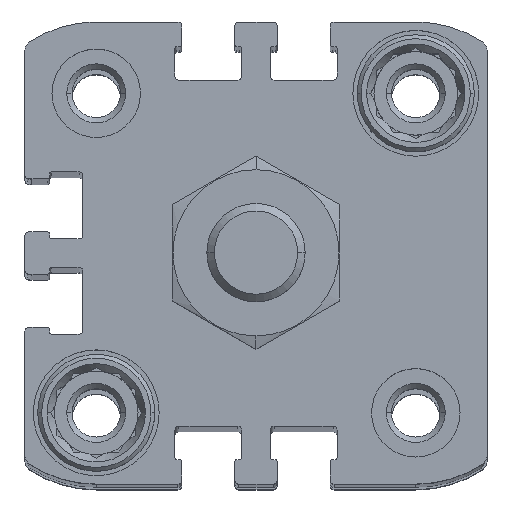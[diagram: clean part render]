
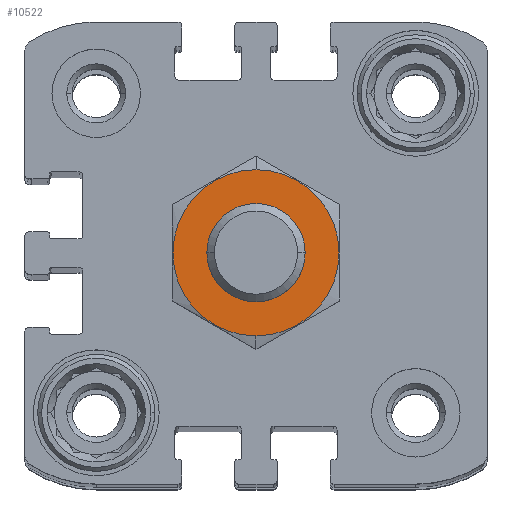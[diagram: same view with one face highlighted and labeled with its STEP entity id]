
A CAD part, top view. The second image highlights one B-rep face of the part: STEP entity #10522.
In plain terms, the highlighted planar face has unit normal (0, 0, 1) as drawn and (0, 1, 0) by its records, which use the part's own axes.
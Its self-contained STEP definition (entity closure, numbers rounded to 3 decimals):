
#642 = EDGE_CURVE ( 'NONE', #9670, #9365, #12069, .T. ) ;
#648 = EDGE_CURVE ( 'NONE', #3700, #14831, #5485, .T. ) ;
#709 = AXIS2_PLACEMENT_3D ( 'NONE', #13685, #13634, #13519 ) ;
#980 = EDGE_CURVE ( 'NONE', #14831, #3700, #15711, .T. ) ;
#984 = EDGE_CURVE ( 'NONE', #9365, #9670, #12439, .T. ) ;
#1862 = ORIENTED_EDGE ( 'NONE', *, *, #648, .F. ) ;
#2460 = DIRECTION ( 'NONE',  ( 0., -1., 0. ) ) ;
#2509 = AXIS2_PLACEMENT_3D ( 'NONE', #8727, #2460, #11212 ) ;
#2990 = CARTESIAN_POINT ( 'NONE',  ( 0., 0., 0. ) ) ;
#3010 = EDGE_LOOP ( 'NONE', ( #1862, #11822 ) ) ;
#3060 = DIRECTION ( 'NONE',  ( 0., -1., 0. ) ) ;
#3073 = FACE_BOUND ( 'NONE', #12976, .T. ) ;
#3371 = DIRECTION ( 'NONE',  ( 0., 1., 0. ) ) ;
#3428 = DIRECTION ( 'NONE',  ( 0., 0., -1. ) ) ;
#3700 = VERTEX_POINT ( 'NONE', #7464 ) ;
#3992 = ORIENTED_EDGE ( 'NONE', *, *, #984, .F. ) ;
#4407 = CARTESIAN_POINT ( 'NONE',  ( 0., 0., 8.45 ) ) ;
#5485 = CIRCLE ( 'NONE', #10666, 8.45 ) ;
#7025 = CARTESIAN_POINT ( 'NONE',  ( 0., 0., -5. ) ) ;
#7464 = CARTESIAN_POINT ( 'NONE',  ( 0., 0., -8.45 ) ) ;
#7975 = ORIENTED_EDGE ( 'NONE', *, *, #642, .F. ) ;
#8727 = CARTESIAN_POINT ( 'NONE',  ( 0., 0., 0. ) ) ;
#9030 = CARTESIAN_POINT ( 'NONE',  ( 0., 0., 0. ) ) ;
#9033 = AXIS2_PLACEMENT_3D ( 'NONE', #9030, #3371, #14845 ) ;
#9365 = VERTEX_POINT ( 'NONE', #15124 ) ;
#9366 = FACE_OUTER_BOUND ( 'NONE', #3010, .T. ) ;
#9670 = VERTEX_POINT ( 'NONE', #7025 ) ;
#9976 = PLANE ( 'NONE',  #2509 ) ;
#10522 = ADVANCED_FACE ( 'NONE', ( #3073, #9366 ), #9976, .F. ) ;
#10666 = AXIS2_PLACEMENT_3D ( 'NONE', #2990, #3060, #3428 ) ;
#11212 = DIRECTION ( 'NONE',  ( 0., 0., -1. ) ) ;
#11822 = ORIENTED_EDGE ( 'NONE', *, *, #980, .F. ) ;
#12069 = CIRCLE ( 'NONE', #9033, 5. ) ;
#12439 = CIRCLE ( 'NONE', #16103, 5. ) ;
#12630 = DIRECTION ( 'NONE',  ( 0., 0., 1. ) ) ;
#12681 = DIRECTION ( 'NONE',  ( 0., 1., 0. ) ) ;
#12741 = CARTESIAN_POINT ( 'NONE',  ( 0., 0., 0. ) ) ;
#12976 = EDGE_LOOP ( 'NONE', ( #3992, #7975 ) ) ;
#13519 = DIRECTION ( 'NONE',  ( 0., 0., -1. ) ) ;
#13634 = DIRECTION ( 'NONE',  ( 0., -1., 0. ) ) ;
#13685 = CARTESIAN_POINT ( 'NONE',  ( 0., 0., 0. ) ) ;
#14831 = VERTEX_POINT ( 'NONE', #4407 ) ;
#14845 = DIRECTION ( 'NONE',  ( 0., 0., 1. ) ) ;
#15124 = CARTESIAN_POINT ( 'NONE',  ( 0., 0., 5. ) ) ;
#15711 = CIRCLE ( 'NONE', #709, 8.45 ) ;
#16103 = AXIS2_PLACEMENT_3D ( 'NONE', #12741, #12681, #12630 ) ;
